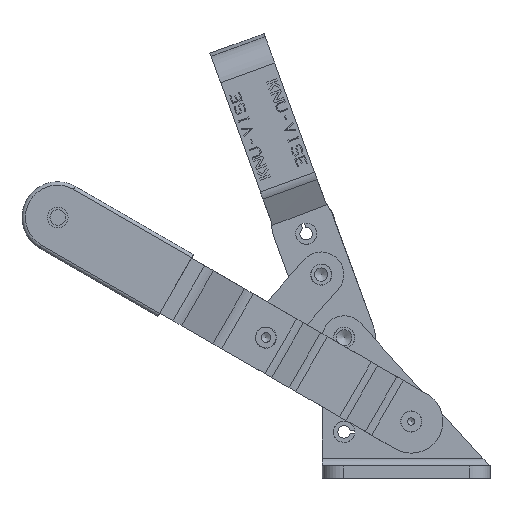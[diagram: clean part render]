
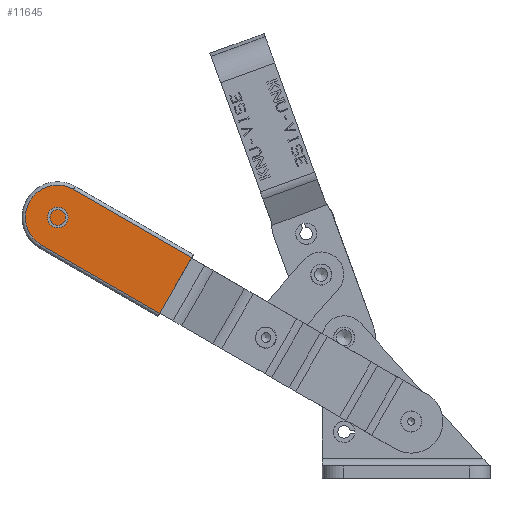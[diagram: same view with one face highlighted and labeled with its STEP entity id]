
A CAD part, front view. The second image highlights one B-rep face of the part: STEP entity #11645.
In plain terms, the highlighted planar face has unit normal (0, -1, 0).
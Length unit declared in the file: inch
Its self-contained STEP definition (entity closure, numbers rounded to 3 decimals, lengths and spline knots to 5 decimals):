
#657=FACE_OUTER_BOUND('',#1378,.T.);
#1378=EDGE_LOOP('',(#9160,#9161,#9162,#9163));
#1888=CIRCLE('',#12425,0.192);
#2688=LINE('',#17713,#4080);
#2700=LINE('',#17741,#4092);
#2701=LINE('',#17744,#4093);
#4080=VECTOR('',#14415,0.384);
#4092=VECTOR('',#14437,0.813);
#4093=VECTOR('',#14440,0.813);
#5338=VERTEX_POINT('',#17710);
#5339=VERTEX_POINT('',#17712);
#5350=VERTEX_POINT('',#17740);
#5351=VERTEX_POINT('',#17742);
#6708=EDGE_CURVE('',#5339,#5338,#2688,.T.);
#6722=EDGE_CURVE('',#5338,#5350,#2700,.T.);
#6723=EDGE_CURVE('',#5350,#5351,#1888,.T.);
#6724=EDGE_CURVE('',#5351,#5339,#2701,.T.);
#9160=ORIENTED_EDGE('',*,*,#6708,.T.);
#9161=ORIENTED_EDGE('',*,*,#6722,.T.);
#9162=ORIENTED_EDGE('',*,*,#6723,.T.);
#9163=ORIENTED_EDGE('',*,*,#6724,.T.);
#11068=PLANE('',#12424);
#11645=ADVANCED_FACE('',(#657),#11068,.T.);
#12424=AXIS2_PLACEMENT_3D('',#17739,#14435,#14436);
#12425=AXIS2_PLACEMENT_3D('',#17743,#14438,#14439);
#14415=DIRECTION('',(0.5,0.,0.866));
#14435=DIRECTION('center_axis',(0.,-1.,0.));
#14436=DIRECTION('ref_axis',(0.866,0.,-0.5));
#14437=DIRECTION('',(-0.866,0.,0.5));
#14438=DIRECTION('center_axis',(0.,-1.,0.));
#14439=DIRECTION('ref_axis',(0.866,0.,-0.5));
#14440=DIRECTION('',(0.866,0.,-0.5));
#17710=CARTESIAN_POINT('',(-0.90867,-0.41689,1.20607));
#17712=CARTESIAN_POINT('',(-1.10067,-0.41689,0.87352));
#17713=CARTESIAN_POINT('',(-1.09817,-0.41689,0.87785));
#17739=CARTESIAN_POINT('Origin',(-1.09817,-0.41689,0.87785));
#17740=CARTESIAN_POINT('',(-1.61275,-0.41689,1.61257));
#17741=CARTESIAN_POINT('',(-0.90867,-0.41689,1.20607));
#17742=CARTESIAN_POINT('',(-1.80475,-0.41689,1.28002));
#17743=CARTESIAN_POINT('Origin',(-1.70875,-0.41689,1.4463));
#17744=CARTESIAN_POINT('',(-1.10067,-0.41689,0.87352));
